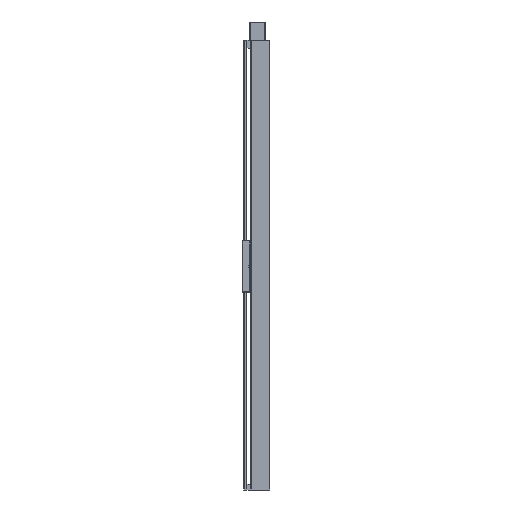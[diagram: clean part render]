
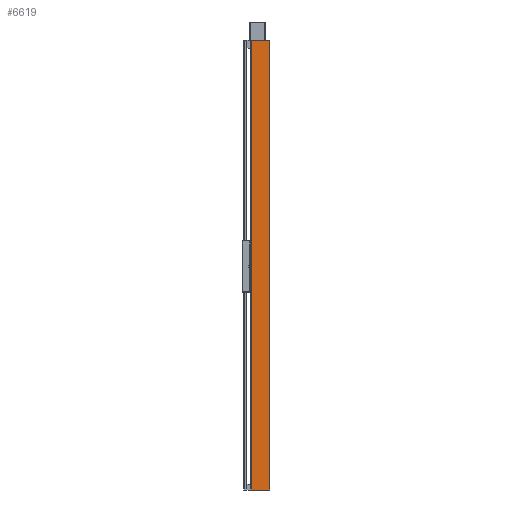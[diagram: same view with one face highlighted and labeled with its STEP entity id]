
A CAD part, left-side view. The second image highlights one B-rep face of the part: STEP entity #6619.
In plain terms, the highlighted planar face has unit normal (-1, 0, 0).
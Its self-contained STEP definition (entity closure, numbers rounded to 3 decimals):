
#1937=CARTESIAN_POINT('',(-68.,65.5,1595.));
#1938=VERTEX_POINT('',#1937);
#1946=CARTESIAN_POINT('',(-68.0,0.5,1595.));
#1947=VERTEX_POINT('',#1946);
#1948=CARTESIAN_POINT('',(-68.0,0.5,1595.));
#1949=DIRECTION('',(0.0,1.0,0.0));
#1950=VECTOR('',#1949,65.0);
#1951=LINE('',#1948,#1950);
#1952=EDGE_CURVE('',#1947,#1938,#1951,.T.);
#5826=CARTESIAN_POINT('',(-68.0,0.5,-20.0));
#5827=VERTEX_POINT('',#5826);
#5836=CARTESIAN_POINT('',(-68.,65.5,-20.0));
#5837=VERTEX_POINT('',#5836);
#5838=CARTESIAN_POINT('',(-68.,65.5,-20.0));
#5839=DIRECTION('',(0.0,-1.0,0.0));
#5840=VECTOR('',#5839,65.0);
#5841=LINE('',#5838,#5840);
#5842=EDGE_CURVE('',#5837,#5827,#5841,.T.);
#6568=CARTESIAN_POINT('',(-68.0,0.5,-20.0));
#6569=DIRECTION('',(0.0,0.0,1.0));
#6570=VECTOR('',#6569,1615.);
#6571=LINE('',#6568,#6570);
#6572=EDGE_CURVE('',#5827,#1947,#6571,.T.);
#6603=CARTESIAN_POINT('',(-68.0,0.5,0.0));
#6604=DIRECTION('',(-1.0,0.0,0.0));
#6605=DIRECTION('',(0.0,0.0,1.0));
#6606=AXIS2_PLACEMENT_3D('',#6603,#6604,#6605);
#6607=PLANE('',#6606);
#6608=CARTESIAN_POINT('',(-68.,65.5,-20.0));
#6609=DIRECTION('',(0.0,0.0,1.0));
#6610=VECTOR('',#6609,1615.);
#6611=LINE('',#6608,#6610);
#6612=EDGE_CURVE('',#5837,#1938,#6611,.T.);
#6613=ORIENTED_EDGE('',*,*,#6612,.F.);
#6614=ORIENTED_EDGE('',*,*,#5842,.T.);
#6615=ORIENTED_EDGE('',*,*,#6572,.T.);
#6616=ORIENTED_EDGE('',*,*,#1952,.T.);
#6617=EDGE_LOOP('',(#6613,#6614,#6615,#6616));
#6618=FACE_OUTER_BOUND('',#6617,.T.);
#6619=ADVANCED_FACE('',(#6618),#6607,.T.);
